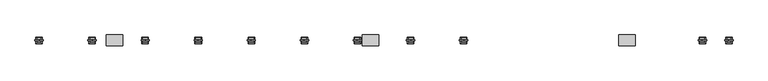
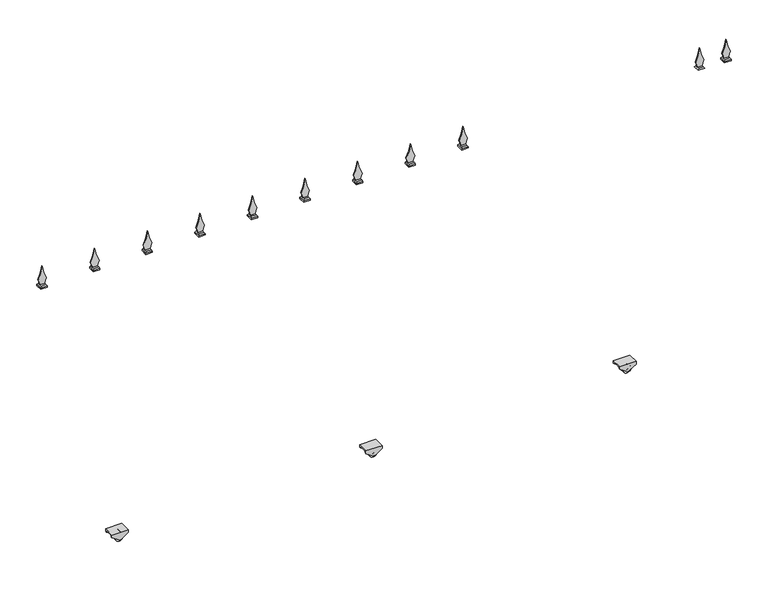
"""IFC4 building model written with IfcOpenShell, lengths in millimetres: geographic element geometry, Portail coulissant - 01 : Portail coulissant - 01."""

from ifc_helpers import new_model, si_unit, point, frame, frame_2d, origin, place, context, project, spatial, polyline, circle_curve, trimmed, segment, composite_curve, outline, extrude, faceted_brep, source, transform, mapped, element, save
from ifc_brep_helpers import plane_surface, cylinder_surface, advanced_brep


def geographic_element_3dbb8d9e(model_context):
    return source(origin(), model_context, "Body", "SolidModel", [
        advanced_brep(
        [(799.2264823, -1.5, 33.0), (799.2264823, -1.5, 3.0), (799.2264823, -14.5, 3.0), (799.2264823, -14.5, 33.0), (799.2264823, -1.5, 30.0), (799.2264823, -1.5, 6.0), (799.2264823, 1.5, 30.0), (799.2264823, 1.5, 6.0), (799.2264823, 1.5, 33.0), (799.2264823, 1.5, 3.0), (799.2264823, 14.5, 33.0), (799.2264823, 14.5, 3.0), (799.2264823, 14.5, 21.0), (796.2264823, 14.5, 18.0), (799.2264823, 14.5, 15.0), (802.2264823, 14.5, 18.0), (799.2264823, -14.5, 15.0), (796.2264823, -14.5, 18.0), (799.2264823, -14.5, 21.0), (802.2264823, -14.5, 18.0), (796.2264823, -16.0, 18.0), (802.2264823, -16.0, 18.0), (796.2264823, 16.0, 18.0), (802.2264823, 16.0, 18.0)],
        [
            (0, 1, circle_curve(frame((799.2264823, -1.5, 18.0), z_axis=(0.0, -1.0, 0.0), x_axis=(0.0, 0.0, -1.0)), 15.0)),
            (1, 2),
            (2, 3, circle_curve(frame((799.2264823, -14.5, 18.0), z_axis=(0.0, 1.0, 0.0), x_axis=(0.0, 0.0, -1.0)), 15.0)),
            (3, 0),
            (1, 0, circle_curve(frame((799.2264823, -1.5, 18.0), z_axis=(0.0, -1.0, 0.0), x_axis=(0.0, 0.0, -1.0)), 15.0)),
            (3, 2, circle_curve(frame((799.2264823, -14.5, 18.0), z_axis=(0.0, 1.0, 0.0), x_axis=(0.0, 0.0, -1.0)), 15.0)),
            (0, 4),
            (4, 5, circle_curve(frame((799.2264823, -1.5, 18.0), z_axis=(0.0, -1.0, 0.0), x_axis=(0.0, 0.0, -1.0)), 12.0)),
            (5, 1),
            (5, 4, circle_curve(frame((799.2264823, -1.5, 18.0), z_axis=(0.0, -1.0, 0.0), x_axis=(0.0, 0.0, -1.0)), 12.0)),
            (4, 6),
            (6, 7, circle_curve(frame((799.2264823, 1.5, 18.0), z_axis=(0.0, -1.0, 0.0), x_axis=(0.0, 0.0, -1.0)), 12.0)),
            (7, 5),
            (7, 6, circle_curve(frame((799.2264823, 1.5, 18.0), z_axis=(0.0, -1.0, 0.0), x_axis=(0.0, 0.0, -1.0)), 12.0)),
            (6, 8),
            (8, 9, circle_curve(frame((799.2264823, 1.5, 18.0), z_axis=(0.0, -1.0, 0.0), x_axis=(0.0, 0.0, -1.0)), 15.0)),
            (9, 7),
            (9, 8, circle_curve(frame((799.2264823, 1.5, 18.0), z_axis=(0.0, -1.0, 0.0), x_axis=(0.0, 0.0, -1.0)), 15.0)),
            (8, 10),
            (10, 11, circle_curve(frame((799.2264823, 14.5, 18.0), z_axis=(0.0, -1.0, 0.0), x_axis=(0.0, 0.0, -1.0)), 15.0)),
            (11, 9),
            (11, 10, circle_curve(frame((799.2264823, 14.5, 18.0), z_axis=(0.0, -1.0, 0.0), x_axis=(0.0, 0.0, -1.0)), 15.0)),
            (10, 12),
            (12, 13, circle_curve(frame((799.2264823, 14.5, 18.0), z_axis=(0.0, -1.0, 0.0), x_axis=(1.0, 0.0, 0.0)), 3.0)),
            (13, 14, circle_curve(frame((799.2264823, 14.5, 18.0), z_axis=(0.0, -1.0, 0.0), x_axis=(1.0, 0.0, 0.0)), 3.0)),
            (14, 11),
            (14, 15, circle_curve(frame((799.2264823, 14.5, 18.0), z_axis=(0.0, -1.0, 0.0), x_axis=(1.0, 0.0, 0.0)), 3.0)),
            (15, 12, circle_curve(frame((799.2264823, 14.5, 18.0), z_axis=(0.0, -1.0, 0.0), x_axis=(1.0, 0.0, 0.0)), 3.0)),
            (2, 16),
            (16, 17, circle_curve(frame((799.2264823, -14.5, 18.0), z_axis=(0.0, 1.0, 0.0), x_axis=(1.0, 0.0, 0.0)), 3.0)),
            (17, 18, circle_curve(frame((799.2264823, -14.5, 18.0), z_axis=(0.0, 1.0, 0.0), x_axis=(1.0, 0.0, 0.0)), 3.0)),
            (18, 3),
            (18, 19, circle_curve(frame((799.2264823, -14.5, 18.0), z_axis=(0.0, 1.0, 0.0), x_axis=(1.0, 0.0, 0.0)), 3.0)),
            (19, 16, circle_curve(frame((799.2264823, -14.5, 18.0), z_axis=(0.0, 1.0, 0.0), x_axis=(1.0, 0.0, 0.0)), 3.0)),
            (20, 21, circle_curve(frame((799.2264823, -16.0, 18.0), z_axis=(0.0, -1.0, 0.0), x_axis=(1.0, 0.0, 0.0)), 3.0)),
            (21, 20, circle_curve(frame((799.2264823, -16.0, 18.0), z_axis=(0.0, -1.0, 0.0), x_axis=(1.0, 0.0, 0.0)), 3.0)),
            (22, 23, circle_curve(frame((799.2264823, 16.0, 18.0), z_axis=(0.0, 1.0, 0.0), x_axis=(1.0, 0.0, 0.0)), 3.0)),
            (23, 22, circle_curve(frame((799.2264823, 16.0, 18.0), z_axis=(0.0, 1.0, 0.0), x_axis=(1.0, 0.0, 0.0)), 3.0)),
            (20, 17),
            (19, 21),
            (23, 15),
            (13, 22),
        ],
        [
            cylinder_surface(frame((799.2264823, 152.0, 18.0), z_axis=(0.0, 1.0, 0.0), x_axis=(0.0, 0.0, -1.0)), 15.0),
            plane_surface(frame((799.2264823, -1.5, 18.0), z_axis=(0.0, 1.0, 0.0), x_axis=(0.0, 0.0, -1.0))),
            cylinder_surface(frame((799.2264823, 152.0, 18.0), z_axis=(0.0, 1.0, 0.0), x_axis=(0.0, 0.0, -1.0)), 12.0),
            plane_surface(frame((799.2264823, 1.5, 18.0), z_axis=(0.0, -1.0, 0.0), x_axis=(0.0, 0.0, -1.0))),
            plane_surface(frame((799.2264823, 14.5, 18.0), z_axis=(0.0, 1.0, 0.0), x_axis=(0.0, 0.0, -1.0))),
            plane_surface(frame((799.2264823, -14.5, 18.0), z_axis=(0.0, -1.0, 0.0), x_axis=(0.0, 0.0, -1.0))),
            plane_surface(frame((802.2264823, -16.0, 18.0), z_axis=(0.0, -1.0, 0.0), x_axis=(0.0, 0.0, 1.0))),
            plane_surface(frame((802.2264823, 16.0, 18.0), z_axis=(0.0, 1.0, 0.0), x_axis=(0.0, 0.0, -1.0))),
            cylinder_surface(frame((799.2264823, 16.0, 18.0), z_axis=(0.0, -1.0, 0.0), x_axis=(1.0, 0.0, 0.0)), 3.0),
        ],
        [
            (0, [[1, 2, 3, 4]]),
            (0, [[-2, 5, -4, 6]]),
            (1, [[-1, 7, 8, 9]]),
            (1, [[-5, -9, 10, -7]]),
            (2, [[-8, 11, 12, 13]]),
            (2, [[-10, -13, 14, -11]]),
            (3, [[-12, 15, 16, 17]]),
            (3, [[-14, -17, 18, -15]]),
            (0, [[-16, 19, 20, 21]]),
            (0, [[-18, -21, 22, -19]]),
            (4, [[-20, 23, 24, 25, 26]]),
            (4, [[-22, -26, 27, 28, -23]]),
            (5, [[-3, 29, 30, 31, 32]]),
            (5, [[-6, -32, 33, 34, -29]]),
            (6, [[35, 36]]),
            (7, [[37, 38]]),
            (8, [[-35, 39, -30, -34, 40]]),
            (8, [[-38, 41, -27, -25, 42]]),
            (8, [[-36, -40, -33, -31, -39]]),
            (8, [[-37, -42, -24, -28, -41]]),
        ],
    ),
        advanced_brep(
        [(769.2264823, -20.0, 30.0), (793.6794803, -20.0, 13.6980013), (804.7734842, -20.0, 13.6980013), (829.2264823, -20.0, 30.0), (829.2264823, -20.0, 40.0), (769.2264823, -20.0, 40.0), (769.2264823, 20.0, 30.0), (769.2264823, 20.0, 40.0), (829.2264823, 20.0, 40.0), (829.2264823, 20.0, 30.0), (804.7734842, 20.0, 13.6980013), (793.6794803, 20.0, 13.6980013), (769.2264823, -16.0, 30.0), (793.6794803, -16.0, 13.6980013), (793.6794803, 16.0, 13.6980013), (769.2264823, 16.0, 30.0), (804.7734842, -16.0, 13.6980013), (804.7734842, 16.0, 13.6980013), (829.2264823, -16.0, 30.0), (829.2264823, 16.0, 30.0), (829.2264823, -16.0, 36.0), (829.2264823, 16.0, 36.0), (769.2264823, 16.0, 36.0), (769.2264823, -16.0, 36.0)],
        [
            (0, 1),
            (1, 2, circle_curve(frame((799.2264823, -20.0, 22.0185043), z_axis=(0.0, -1.0, 0.0), x_axis=(1.0, 0.0, 0.0)), 10.0)),
            (2, 3),
            (3, 4),
            (4, 5),
            (5, 0),
            (6, 7),
            (7, 8),
            (8, 9),
            (9, 10),
            (10, 11, circle_curve(frame((799.2264823, 20.0, 22.0185043), z_axis=(0.0, 1.0, 0.0), x_axis=(1.0, 0.0, 0.0)), 10.0)),
            (11, 6),
            (0, 12),
            (12, 13),
            (13, 1),
            (11, 14),
            (14, 15),
            (15, 6),
            (13, 16, circle_curve(frame((799.2264823, -16.0, 22.0185043), z_axis=(0.0, -1.0, 0.0), x_axis=(1.0, 0.0, 0.0)), 10.0)),
            (16, 2),
            (10, 17),
            (17, 14, circle_curve(frame((799.2264823, 16.0, 22.0185043), z_axis=(0.0, 1.0, 0.0), x_axis=(1.0, 0.0, 0.0)), 10.0)),
            (16, 18),
            (18, 3),
            (9, 19),
            (19, 17),
            (18, 20),
            (20, 21),
            (21, 19),
            (8, 4),
            (7, 5),
            (15, 22),
            (22, 23),
            (23, 12),
            (23, 20),
            (22, 21),
        ],
        [
            plane_surface(frame((769.2264823, -20.0, 30.0), z_axis=(0.0, -1.0000000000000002, 0.0), x_axis=(0.8320502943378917, 0.0, -0.5547001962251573))),
            plane_surface(frame((769.2264823, 20.0, 30.0), z_axis=(0.0, 1.0000000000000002, 0.0), x_axis=(-0.8320502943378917, 0.0, 0.5547001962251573))),
            plane_surface(frame((769.2264823, -20.0, 30.0), z_axis=(-0.5547001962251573, 0.0, -0.8320502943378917), x_axis=(0.0, 1.0, 0.0))),
            cylinder_surface(frame((799.2264823, 20.0, 22.0185043), z_axis=(0.0, -1.0, 0.0), x_axis=(1.0, 0.0, 0.0)), 10.0),
            plane_surface(frame((804.7734842, -20.0, 13.6980013), z_axis=(0.554700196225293, 0.0, -0.8320502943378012), x_axis=(0.0, 1.0, 0.0))),
            plane_surface(frame((829.2264823, -20.0, 30.0), z_axis=(1.0, 0.0, 0.0), x_axis=(0.0, 1.0, 0.0))),
            plane_surface(frame((829.2264823, -20.0, 40.0), z_axis=(0.0, 0.0, 1.0), x_axis=(0.0, 1.0, 0.0))),
            plane_surface(frame((769.2264823, -20.0, 40.0), z_axis=(-1.0, 0.0, 0.0), x_axis=(0.0, 1.0, 0.0))),
            plane_surface(frame((769.2264823, -16.0, 0.0), z_axis=(0.0, 1.0, 0.0), x_axis=(1.0, 0.0, 0.0))),
            plane_surface(frame((769.2264823, -16.0, 36.0), z_axis=(0.0, 0.0, -1.0), x_axis=(1.0, 0.0, 0.0))),
            plane_surface(frame((769.2264823, 16.0, 36.0), z_axis=(0.0, -1.0, 0.0), x_axis=(1.0, 0.0, 0.0))),
        ],
        [
            (0, [[1, 2, 3, 4, 5, 6]]),
            (1, [[7, 8, 9, 10, 11, 12]]),
            (2, [[-1, 13, 14, 15]]),
            (2, [[-12, 16, 17, 18]]),
            (3, [[-2, -15, 19, 20]]),
            (3, [[-11, 21, 22, -16]]),
            (4, [[-3, -20, 23, 24]]),
            (4, [[-10, 25, 26, -21]]),
            (5, [[-4, -24, 27, 28, 29, -25, -9, 30]]),
            (6, [[-5, -30, -8, 31]]),
            (7, [[-6, -31, -7, -18, 32, 33, 34, -13]]),
            (8, [[35, -27, -23, -19, -14, -34]]),
            (9, [[-35, -33, 36, -28]]),
            (10, [[-36, -32, -17, -22, -26, -29]]),
        ],
    ),
        advanced_brep(
        [(-134.1068511, -1.5, 33.0), (-134.1068511, -1.5, 3.0), (-134.1068511, -14.5, 3.0), (-134.1068511, -14.5, 33.0), (-134.1068511, -1.5, 30.0), (-134.1068511, -1.5, 6.0), (-134.1068511, 1.5, 30.0), (-134.1068511, 1.5, 6.0), (-134.1068511, 1.5, 33.0), (-134.1068511, 1.5, 3.0), (-134.1068511, 14.5, 33.0), (-134.1068511, 14.5, 3.0), (-134.1068511, 14.5, 21.0), (-137.1068511, 14.5, 18.0), (-134.1068511, 14.5, 15.0), (-131.1068511, 14.5, 18.0), (-134.1068511, -14.5, 15.0), (-137.1068511, -14.5, 18.0), (-134.1068511, -14.5, 21.0), (-131.1068511, -14.5, 18.0), (-137.1068511, -16.0, 18.0), (-131.1068511, -16.0, 18.0), (-137.1068511, 16.0, 18.0), (-131.1068511, 16.0, 18.0)],
        [
            (0, 1, circle_curve(frame((-134.1068511, -1.5, 18.0), z_axis=(0.0, -1.0, 0.0), x_axis=(0.0, 0.0, -1.0)), 15.0)),
            (1, 2),
            (2, 3, circle_curve(frame((-134.1068511, -14.5, 18.0), z_axis=(0.0, 1.0, 0.0), x_axis=(0.0, 0.0, -1.0)), 15.0)),
            (3, 0),
            (1, 0, circle_curve(frame((-134.1068511, -1.5, 18.0), z_axis=(0.0, -1.0, 0.0), x_axis=(0.0, 0.0, -1.0)), 15.0)),
            (3, 2, circle_curve(frame((-134.1068511, -14.5, 18.0), z_axis=(0.0, 1.0, 0.0), x_axis=(0.0, 0.0, -1.0)), 15.0)),
            (0, 4),
            (4, 5, circle_curve(frame((-134.1068511, -1.5, 18.0), z_axis=(0.0, -1.0, 0.0), x_axis=(0.0, 0.0, -1.0)), 12.0)),
            (5, 1),
            (5, 4, circle_curve(frame((-134.1068511, -1.5, 18.0), z_axis=(0.0, -1.0, 0.0), x_axis=(0.0, 0.0, -1.0)), 12.0)),
            (4, 6),
            (6, 7, circle_curve(frame((-134.1068511, 1.5, 18.0), z_axis=(0.0, -1.0, 0.0), x_axis=(0.0, 0.0, -1.0)), 12.0)),
            (7, 5),
            (7, 6, circle_curve(frame((-134.1068511, 1.5, 18.0), z_axis=(0.0, -1.0, 0.0), x_axis=(0.0, 0.0, -1.0)), 12.0)),
            (6, 8),
            (8, 9, circle_curve(frame((-134.1068511, 1.5, 18.0), z_axis=(0.0, -1.0, 0.0), x_axis=(0.0, 0.0, -1.0)), 15.0)),
            (9, 7),
            (9, 8, circle_curve(frame((-134.1068511, 1.5, 18.0), z_axis=(0.0, -1.0, 0.0), x_axis=(0.0, 0.0, -1.0)), 15.0)),
            (8, 10),
            (10, 11, circle_curve(frame((-134.1068511, 14.5, 18.0), z_axis=(0.0, -1.0, 0.0), x_axis=(0.0, 0.0, -1.0)), 15.0)),
            (11, 9),
            (11, 10, circle_curve(frame((-134.1068511, 14.5, 18.0), z_axis=(0.0, -1.0, 0.0), x_axis=(0.0, 0.0, -1.0)), 15.0)),
            (10, 12),
            (12, 13, circle_curve(frame((-134.1068511, 14.5, 18.0), z_axis=(0.0, -1.0, 0.0), x_axis=(1.0, 0.0, 0.0)), 3.0)),
            (13, 14, circle_curve(frame((-134.1068511, 14.5, 18.0), z_axis=(0.0, -1.0, 0.0), x_axis=(1.0, 0.0, 0.0)), 3.0)),
            (14, 11),
            (14, 15, circle_curve(frame((-134.1068511, 14.5, 18.0), z_axis=(0.0, -1.0, 0.0), x_axis=(1.0, 0.0, 0.0)), 3.0)),
            (15, 12, circle_curve(frame((-134.1068511, 14.5, 18.0), z_axis=(0.0, -1.0, 0.0), x_axis=(1.0, 0.0, 0.0)), 3.0)),
            (2, 16),
            (16, 17, circle_curve(frame((-134.1068511, -14.5, 18.0), z_axis=(0.0, 1.0, 0.0), x_axis=(1.0, 0.0, 0.0)), 3.0)),
            (17, 18, circle_curve(frame((-134.1068511, -14.5, 18.0), z_axis=(0.0, 1.0, 0.0), x_axis=(1.0, 0.0, 0.0)), 3.0)),
            (18, 3),
            (18, 19, circle_curve(frame((-134.1068511, -14.5, 18.0), z_axis=(0.0, 1.0, 0.0), x_axis=(1.0, 0.0, 0.0)), 3.0)),
            (19, 16, circle_curve(frame((-134.1068511, -14.5, 18.0), z_axis=(0.0, 1.0, 0.0), x_axis=(1.0, 0.0, 0.0)), 3.0)),
            (20, 21, circle_curve(frame((-134.1068511, -16.0, 18.0), z_axis=(0.0, -1.0, 0.0), x_axis=(1.0, 0.0, 0.0)), 3.0)),
            (21, 20, circle_curve(frame((-134.1068511, -16.0, 18.0), z_axis=(0.0, -1.0, 0.0), x_axis=(1.0, 0.0, 0.0)), 3.0)),
            (22, 23, circle_curve(frame((-134.1068511, 16.0, 18.0), z_axis=(0.0, 1.0, 0.0), x_axis=(1.0, 0.0, 0.0)), 3.0)),
            (23, 22, circle_curve(frame((-134.1068511, 16.0, 18.0), z_axis=(0.0, 1.0, 0.0), x_axis=(1.0, 0.0, 0.0)), 3.0)),
            (20, 17),
            (19, 21),
            (23, 15),
            (13, 22),
        ],
        [
            cylinder_surface(frame((-134.1068511, 152.0, 18.0), z_axis=(0.0, 1.0, 0.0), x_axis=(0.0, 0.0, -1.0)), 15.0),
            plane_surface(frame((-134.1068511, -1.5, 18.0), z_axis=(0.0, 1.0, 0.0), x_axis=(0.0, 0.0, -1.0))),
            cylinder_surface(frame((-134.1068511, 152.0, 18.0), z_axis=(0.0, 1.0, 0.0), x_axis=(0.0, 0.0, -1.0)), 12.0),
            plane_surface(frame((-134.1068511, 1.5, 18.0), z_axis=(0.0, -1.0, 0.0), x_axis=(0.0, 0.0, -1.0))),
            plane_surface(frame((-134.1068511, 14.5, 18.0), z_axis=(0.0, 1.0, 0.0), x_axis=(0.0, 0.0, -1.0))),
            plane_surface(frame((-134.1068511, -14.5, 18.0), z_axis=(0.0, -1.0, 0.0), x_axis=(0.0, 0.0, -1.0))),
            plane_surface(frame((-131.1068511, -16.0, 18.0), z_axis=(0.0, -1.0, 0.0), x_axis=(0.0, 0.0, 1.0))),
            plane_surface(frame((-131.1068511, 16.0, 18.0), z_axis=(0.0, 1.0, 0.0), x_axis=(0.0, 0.0, -1.0))),
            cylinder_surface(frame((-134.1068511, 16.0, 18.0), z_axis=(0.0, -1.0, 0.0), x_axis=(1.0, 0.0, 0.0)), 3.0),
        ],
        [
            (0, [[1, 2, 3, 4]]),
            (0, [[-2, 5, -4, 6]]),
            (1, [[-1, 7, 8, 9]]),
            (1, [[-5, -9, 10, -7]]),
            (2, [[-8, 11, 12, 13]]),
            (2, [[-10, -13, 14, -11]]),
            (3, [[-12, 15, 16, 17]]),
            (3, [[-14, -17, 18, -15]]),
            (0, [[-16, 19, 20, 21]]),
            (0, [[-18, -21, 22, -19]]),
            (4, [[-20, 23, 24, 25, 26]]),
            (4, [[-22, -26, 27, 28, -23]]),
            (5, [[-3, 29, 30, 31, 32]]),
            (5, [[-6, -32, 33, 34, -29]]),
            (6, [[35, 36]]),
            (7, [[37, 38]]),
            (8, [[-35, 39, -30, -34, 40]]),
            (8, [[-38, 41, -27, -25, 42]]),
            (8, [[-36, -40, -33, -31, -39]]),
            (8, [[-37, -42, -24, -28, -41]]),
        ],
    ),
        advanced_brep(
        [(-164.1068511, -20.0, 30.0), (-139.653853, -20.0, 13.6980013), (-128.5598491, -20.0, 13.6980013), (-104.1068511, -20.0, 30.0), (-104.1068511, -20.0, 40.0), (-164.1068511, -20.0, 40.0), (-164.1068511, 20.0, 30.0), (-164.1068511, 20.0, 40.0), (-104.1068511, 20.0, 40.0), (-104.1068511, 20.0, 30.0), (-128.5598491, 20.0, 13.6980013), (-139.653853, 20.0, 13.6980013), (-164.1068511, -16.0, 30.0), (-139.653853, -16.0, 13.6980013), (-139.653853, 16.0, 13.6980013), (-164.1068511, 16.0, 30.0), (-128.5598491, -16.0, 13.6980013), (-128.5598491, 16.0, 13.6980013), (-104.1068511, -16.0, 30.0), (-104.1068511, 16.0, 30.0), (-104.1068511, -16.0, 36.0), (-104.1068511, 16.0, 36.0), (-164.1068511, 16.0, 36.0), (-164.1068511, -16.0, 36.0)],
        [
            (0, 1),
            (1, 2, circle_curve(frame((-134.1068511, -20.0, 22.0185043), z_axis=(0.0, -1.0, 0.0), x_axis=(1.0, 0.0, 0.0)), 10.0)),
            (2, 3),
            (3, 4),
            (4, 5),
            (5, 0),
            (6, 7),
            (7, 8),
            (8, 9),
            (9, 10),
            (10, 11, circle_curve(frame((-134.1068511, 20.0, 22.0185043), z_axis=(0.0, 1.0, 0.0), x_axis=(1.0, 0.0, 0.0)), 10.0)),
            (11, 6),
            (0, 12),
            (12, 13),
            (13, 1),
            (11, 14),
            (14, 15),
            (15, 6),
            (13, 16, circle_curve(frame((-134.1068511, -16.0, 22.0185043), z_axis=(0.0, -1.0, 0.0), x_axis=(1.0, 0.0, 0.0)), 10.0)),
            (16, 2),
            (10, 17),
            (17, 14, circle_curve(frame((-134.1068511, 16.0, 22.0185043), z_axis=(0.0, 1.0, 0.0), x_axis=(1.0, 0.0, 0.0)), 10.0)),
            (16, 18),
            (18, 3),
            (9, 19),
            (19, 17),
            (18, 20),
            (20, 21),
            (21, 19),
            (8, 4),
            (7, 5),
            (15, 22),
            (22, 23),
            (23, 12),
            (23, 20),
            (22, 21),
        ],
        [
            plane_surface(frame((-164.1068511, -20.0, 30.0), z_axis=(0.0, -1.0000000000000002, 0.0), x_axis=(0.8320502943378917, 0.0, -0.5547001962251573))),
            plane_surface(frame((-164.1068511, 20.0, 30.0), z_axis=(0.0, 1.0000000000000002, 0.0), x_axis=(-0.8320502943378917, 0.0, 0.5547001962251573))),
            plane_surface(frame((-164.1068511, -20.0, 30.0), z_axis=(-0.5547001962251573, 0.0, -0.8320502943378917), x_axis=(0.0, 1.0, 0.0))),
            cylinder_surface(frame((-134.1068511, 20.0, 22.0185043), z_axis=(0.0, -1.0, 0.0), x_axis=(1.0, 0.0, 0.0)), 10.0),
            plane_surface(frame((-128.5598491, -20.0, 13.6980013), z_axis=(0.554700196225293, 0.0, -0.8320502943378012), x_axis=(0.0, 1.0, 0.0))),
            plane_surface(frame((-104.1068511, -20.0, 30.0), z_axis=(1.0, 0.0, 0.0), x_axis=(0.0, 1.0, 0.0))),
            plane_surface(frame((-104.1068511, -20.0, 40.0), z_axis=(0.0, 0.0, 1.0), x_axis=(0.0, 1.0, 0.0))),
            plane_surface(frame((-164.1068511, -20.0, 40.0), z_axis=(-1.0, 0.0, 0.0), x_axis=(0.0, 1.0, 0.0))),
            plane_surface(frame((-164.1068511, -16.0, 0.0), z_axis=(0.0, 1.0, 0.0), x_axis=(1.0, 0.0, 0.0))),
            plane_surface(frame((-164.1068511, -16.0, 36.0), z_axis=(0.0, 0.0, -1.0), x_axis=(1.0, 0.0, 0.0))),
            plane_surface(frame((-164.1068511, 16.0, 36.0), z_axis=(0.0, -1.0, 0.0), x_axis=(1.0, 0.0, 0.0))),
        ],
        [
            (0, [[1, 2, 3, 4, 5, 6]]),
            (1, [[7, 8, 9, 10, 11, 12]]),
            (2, [[-1, 13, 14, 15]]),
            (2, [[-12, 16, 17, 18]]),
            (3, [[-2, -15, 19, 20]]),
            (3, [[-11, 21, 22, -16]]),
            (4, [[-3, -20, 23, 24]]),
            (4, [[-10, 25, 26, -21]]),
            (5, [[-4, -24, 27, 28, 29, -25, -9, 30]]),
            (6, [[-5, -30, -8, 31]]),
            (7, [[-6, -31, -7, -18, 32, 33, 34, -13]]),
            (8, [[35, -27, -23, -19, -14, -34]]),
            (9, [[-35, -33, 36, -28]]),
            (10, [[-36, -32, -17, -22, -26, -29]]),
        ],
    ),
        advanced_brep(
        [(-1067.4401844, -1.5, 33.0), (-1067.4401844, -1.5, 3.0), (-1067.4401844, -14.5, 3.0), (-1067.4401844, -14.5, 33.0), (-1067.4401844, -1.5, 30.0), (-1067.4401844, -1.5, 6.0), (-1067.4401844, 1.5, 30.0), (-1067.4401844, 1.5, 6.0), (-1067.4401844, 1.5, 33.0), (-1067.4401844, 1.5, 3.0), (-1067.4401844, 14.5, 33.0), (-1067.4401844, 14.5, 3.0), (-1067.4401844, 14.5, 21.0), (-1070.4401844, 14.5, 18.0), (-1067.4401844, 14.5, 15.0), (-1064.4401844, 14.5, 18.0), (-1067.4401844, -14.5, 15.0), (-1070.4401844, -14.5, 18.0), (-1067.4401844, -14.5, 21.0), (-1064.4401844, -14.5, 18.0), (-1070.4401844, -16.0, 18.0), (-1064.4401844, -16.0, 18.0), (-1070.4401844, 16.0, 18.0), (-1064.4401844, 16.0, 18.0)],
        [
            (0, 1, circle_curve(frame((-1067.4401844, -1.5, 18.0), z_axis=(0.0, -1.0, 0.0), x_axis=(0.0, 0.0, -1.0)), 15.0)),
            (1, 2),
            (2, 3, circle_curve(frame((-1067.4401844, -14.5, 18.0), z_axis=(0.0, 1.0, 0.0), x_axis=(0.0, 0.0, -1.0)), 15.0)),
            (3, 0),
            (1, 0, circle_curve(frame((-1067.4401844, -1.5, 18.0), z_axis=(0.0, -1.0, 0.0), x_axis=(0.0, 0.0, -1.0)), 15.0)),
            (3, 2, circle_curve(frame((-1067.4401844, -14.5, 18.0), z_axis=(0.0, 1.0, 0.0), x_axis=(0.0, 0.0, -1.0)), 15.0)),
            (0, 4),
            (4, 5, circle_curve(frame((-1067.4401844, -1.5, 18.0), z_axis=(0.0, -1.0, 0.0), x_axis=(0.0, 0.0, -1.0)), 12.0)),
            (5, 1),
            (5, 4, circle_curve(frame((-1067.4401844, -1.5, 18.0), z_axis=(0.0, -1.0, 0.0), x_axis=(0.0, 0.0, -1.0)), 12.0)),
            (4, 6),
            (6, 7, circle_curve(frame((-1067.4401844, 1.5, 18.0), z_axis=(0.0, -1.0, 0.0), x_axis=(0.0, 0.0, -1.0)), 12.0)),
            (7, 5),
            (7, 6, circle_curve(frame((-1067.4401844, 1.5, 18.0), z_axis=(0.0, -1.0, 0.0), x_axis=(0.0, 0.0, -1.0)), 12.0)),
            (6, 8),
            (8, 9, circle_curve(frame((-1067.4401844, 1.5, 18.0), z_axis=(0.0, -1.0, 0.0), x_axis=(0.0, 0.0, -1.0)), 15.0)),
            (9, 7),
            (9, 8, circle_curve(frame((-1067.4401844, 1.5, 18.0), z_axis=(0.0, -1.0, 0.0), x_axis=(0.0, 0.0, -1.0)), 15.0)),
            (8, 10),
            (10, 11, circle_curve(frame((-1067.4401844, 14.5, 18.0), z_axis=(0.0, -1.0, 0.0), x_axis=(0.0, 0.0, -1.0)), 15.0)),
            (11, 9),
            (11, 10, circle_curve(frame((-1067.4401844, 14.5, 18.0), z_axis=(0.0, -1.0, 0.0), x_axis=(0.0, 0.0, -1.0)), 15.0)),
            (10, 12),
            (12, 13, circle_curve(frame((-1067.4401844, 14.5, 18.0), z_axis=(0.0, -1.0, 0.0), x_axis=(1.0, 0.0, 0.0)), 3.0)),
            (13, 14, circle_curve(frame((-1067.4401844, 14.5, 18.0), z_axis=(0.0, -1.0, 0.0), x_axis=(1.0, 0.0, 0.0)), 3.0)),
            (14, 11),
            (14, 15, circle_curve(frame((-1067.4401844, 14.5, 18.0), z_axis=(0.0, -1.0, 0.0), x_axis=(1.0, 0.0, 0.0)), 3.0)),
            (15, 12, circle_curve(frame((-1067.4401844, 14.5, 18.0), z_axis=(0.0, -1.0, 0.0), x_axis=(1.0, 0.0, 0.0)), 3.0)),
            (2, 16),
            (16, 17, circle_curve(frame((-1067.4401844, -14.5, 18.0), z_axis=(0.0, 1.0, 0.0), x_axis=(1.0, 0.0, 0.0)), 3.0)),
            (17, 18, circle_curve(frame((-1067.4401844, -14.5, 18.0), z_axis=(0.0, 1.0, 0.0), x_axis=(1.0, 0.0, 0.0)), 3.0)),
            (18, 3),
            (18, 19, circle_curve(frame((-1067.4401844, -14.5, 18.0), z_axis=(0.0, 1.0, 0.0), x_axis=(1.0, 0.0, 0.0)), 3.0)),
            (19, 16, circle_curve(frame((-1067.4401844, -14.5, 18.0), z_axis=(0.0, 1.0, 0.0), x_axis=(1.0, 0.0, 0.0)), 3.0)),
            (20, 21, circle_curve(frame((-1067.4401844, -16.0, 18.0), z_axis=(0.0, -1.0, 0.0), x_axis=(1.0, 0.0, 0.0)), 3.0)),
            (21, 20, circle_curve(frame((-1067.4401844, -16.0, 18.0), z_axis=(0.0, -1.0, 0.0), x_axis=(1.0, 0.0, 0.0)), 3.0)),
            (22, 23, circle_curve(frame((-1067.4401844, 16.0, 18.0), z_axis=(0.0, 1.0, 0.0), x_axis=(1.0, 0.0, 0.0)), 3.0)),
            (23, 22, circle_curve(frame((-1067.4401844, 16.0, 18.0), z_axis=(0.0, 1.0, 0.0), x_axis=(1.0, 0.0, 0.0)), 3.0)),
            (20, 17),
            (19, 21),
            (23, 15),
            (13, 22),
        ],
        [
            cylinder_surface(frame((-1067.4401844, 152.0, 18.0), z_axis=(0.0, 1.0, 0.0), x_axis=(0.0, 0.0, -1.0)), 15.0),
            plane_surface(frame((-1067.4401844, -1.5, 18.0), z_axis=(0.0, 1.0, 0.0), x_axis=(0.0, 0.0, -1.0))),
            cylinder_surface(frame((-1067.4401844, 152.0, 18.0), z_axis=(0.0, 1.0, 0.0), x_axis=(0.0, 0.0, -1.0)), 12.0),
            plane_surface(frame((-1067.4401844, 1.5, 18.0), z_axis=(0.0, -1.0, 0.0), x_axis=(0.0, 0.0, -1.0))),
            plane_surface(frame((-1067.4401844, 14.5, 18.0), z_axis=(0.0, 1.0, 0.0), x_axis=(0.0, 0.0, -1.0))),
            plane_surface(frame((-1067.4401844, -14.5, 18.0), z_axis=(0.0, -1.0, 0.0), x_axis=(0.0, 0.0, -1.0))),
            plane_surface(frame((-1064.4401844, -16.0, 18.0), z_axis=(0.0, -1.0, 0.0), x_axis=(0.0, 0.0, 1.0))),
            plane_surface(frame((-1064.4401844, 16.0, 18.0), z_axis=(0.0, 1.0, 0.0), x_axis=(0.0, 0.0, -1.0))),
            cylinder_surface(frame((-1067.4401844, 16.0, 18.0), z_axis=(0.0, -1.0, 0.0), x_axis=(1.0, 0.0, 0.0)), 3.0),
        ],
        [
            (0, [[1, 2, 3, 4]]),
            (0, [[-2, 5, -4, 6]]),
            (1, [[-1, 7, 8, 9]]),
            (1, [[-5, -9, 10, -7]]),
            (2, [[-8, 11, 12, 13]]),
            (2, [[-10, -13, 14, -11]]),
            (3, [[-12, 15, 16, 17]]),
            (3, [[-14, -17, 18, -15]]),
            (0, [[-16, 19, 20, 21]]),
            (0, [[-18, -21, 22, -19]]),
            (4, [[-20, 23, 24, 25, 26]]),
            (4, [[-22, -26, 27, 28, -23]]),
            (5, [[-3, 29, 30, 31, 32]]),
            (5, [[-6, -32, 33, 34, -29]]),
            (6, [[35, 36]]),
            (7, [[37, 38]]),
            (8, [[-35, 39, -30, -34, 40]]),
            (8, [[-38, 41, -27, -25, 42]]),
            (8, [[-36, -40, -33, -31, -39]]),
            (8, [[-37, -42, -24, -28, -41]]),
        ],
    ),
        advanced_brep(
        [(-1097.4401844, -20.0, 30.0), (-1072.9871864, -20.0, 13.6980013), (-1061.8931824, -20.0, 13.6980013), (-1037.4401844, -20.0, 30.0), (-1037.4401844, -20.0, 40.0), (-1097.4401844, -20.0, 40.0), (-1097.4401844, 20.0, 30.0), (-1097.4401844, 20.0, 40.0), (-1037.4401844, 20.0, 40.0), (-1037.4401844, 20.0, 30.0), (-1061.8931824, 20.0, 13.6980013), (-1072.9871864, 20.0, 13.6980013), (-1097.4401844, -16.0, 30.0), (-1072.9871864, -16.0, 13.6980013), (-1072.9871864, 16.0, 13.6980013), (-1097.4401844, 16.0, 30.0), (-1061.8931824, -16.0, 13.6980013), (-1061.8931824, 16.0, 13.6980013), (-1037.4401844, -16.0, 30.0), (-1037.4401844, 16.0, 30.0), (-1037.4401844, -16.0, 36.0), (-1037.4401844, 16.0, 36.0), (-1097.4401844, 16.0, 36.0), (-1097.4401844, -16.0, 36.0)],
        [
            (0, 1),
            (1, 2, circle_curve(frame((-1067.4401844, -20.0, 22.0185043), z_axis=(0.0, -1.0, 0.0), x_axis=(1.0, 0.0, 0.0)), 10.0)),
            (2, 3),
            (3, 4),
            (4, 5),
            (5, 0),
            (6, 7),
            (7, 8),
            (8, 9),
            (9, 10),
            (10, 11, circle_curve(frame((-1067.4401844, 20.0, 22.0185043), z_axis=(0.0, 1.0, 0.0), x_axis=(1.0, 0.0, 0.0)), 10.0)),
            (11, 6),
            (0, 12),
            (12, 13),
            (13, 1),
            (11, 14),
            (14, 15),
            (15, 6),
            (13, 16, circle_curve(frame((-1067.4401844, -16.0, 22.0185043), z_axis=(0.0, -1.0, 0.0), x_axis=(1.0, 0.0, 0.0)), 10.0)),
            (16, 2),
            (10, 17),
            (17, 14, circle_curve(frame((-1067.4401844, 16.0, 22.0185043), z_axis=(0.0, 1.0, 0.0), x_axis=(1.0, 0.0, 0.0)), 10.0)),
            (16, 18),
            (18, 3),
            (9, 19),
            (19, 17),
            (18, 20),
            (20, 21),
            (21, 19),
            (8, 4),
            (7, 5),
            (15, 22),
            (22, 23),
            (23, 12),
            (23, 20),
            (22, 21),
        ],
        [
            plane_surface(frame((-1097.4401844, -20.0, 30.0), z_axis=(0.0, -1.0000000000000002, 0.0), x_axis=(0.8320502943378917, 0.0, -0.5547001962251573))),
            plane_surface(frame((-1097.4401844, 20.0, 30.0), z_axis=(0.0, 1.0000000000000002, 0.0), x_axis=(-0.8320502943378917, 0.0, 0.5547001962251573))),
            plane_surface(frame((-1097.4401844, -20.0, 30.0), z_axis=(-0.5547001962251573, 0.0, -0.8320502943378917), x_axis=(0.0, 1.0, 0.0))),
            cylinder_surface(frame((-1067.4401844, 20.0, 22.0185043), z_axis=(0.0, -1.0, 0.0), x_axis=(1.0, 0.0, 0.0)), 10.0),
            plane_surface(frame((-1061.8931824, -20.0, 13.6980013), z_axis=(0.554700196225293, 0.0, -0.8320502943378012), x_axis=(0.0, 1.0, 0.0))),
            plane_surface(frame((-1037.4401844, -20.0, 30.0), z_axis=(1.0, 0.0, 0.0), x_axis=(0.0, 1.0, 0.0))),
            plane_surface(frame((-1037.4401844, -20.0, 40.0), z_axis=(0.0, 0.0, 1.0), x_axis=(0.0, 1.0, 0.0))),
            plane_surface(frame((-1097.4401844, -20.0, 40.0), z_axis=(-1.0, 0.0, 0.0), x_axis=(0.0, 1.0, 0.0))),
            plane_surface(frame((-1097.4401844, -16.0, 0.0), z_axis=(0.0, 1.0, 0.0), x_axis=(1.0, 0.0, 0.0))),
            plane_surface(frame((-1097.4401844, -16.0, 36.0), z_axis=(0.0, 0.0, -1.0), x_axis=(1.0, 0.0, 0.0))),
            plane_surface(frame((-1097.4401844, 16.0, 36.0), z_axis=(0.0, -1.0, 0.0), x_axis=(1.0, 0.0, 0.0))),
        ],
        [
            (0, [[1, 2, 3, 4, 5, 6]]),
            (1, [[7, 8, 9, 10, 11, 12]]),
            (2, [[-1, 13, 14, 15]]),
            (2, [[-12, 16, 17, 18]]),
            (3, [[-2, -15, 19, 20]]),
            (3, [[-11, 21, 22, -16]]),
            (4, [[-3, -20, 23, 24]]),
            (4, [[-10, 25, 26, -21]]),
            (5, [[-4, -24, 27, 28, 29, -25, -9, 30]]),
            (6, [[-5, -30, -8, 31]]),
            (7, [[-6, -31, -7, -18, 32, 33, 34, -13]]),
            (8, [[35, -27, -23, -19, -14, -34]]),
            (9, [[-35, -33, 36, -28]]),
            (10, [[-36, -32, -17, -22, -26, -29]]),
        ],
    ),
        extrude(outline(composite_curve([segment(trimmed(circle_curve(frame_2d((1074.9252719, 108.6440554)), 87.884948), [point((1110.0, 189.2264823))], [point((1090.0, 195.2264823))], True, "CARTESIAN"), True, "CONTINUOUS"), segment(polyline([(1090.0, 195.2264823), (1090.0, 213.2264823)]), True, "CONTINUOUS"), segment(trimmed(circle_curve(frame_2d((1074.9252719, 299.8089092)), 87.884948), [point((1090.0, 213.2264823))], [point((1110.0, 219.2264823))], True, "CARTESIAN"), True, "CONTINUOUS"), segment(trimmed(circle_curve(frame_2d((1184.2044665, 375.7413708)), 173.2143562), [point((1110.0, 219.2264823))], [point((1160.0, 204.2264823))], True, "CARTESIAN"), True, "CONTINUOUS"), segment(trimmed(circle_curve(frame_2d((1184.2044665, 32.7115938)), 173.2143562), [point((1160.0, 204.2264823))], [point((1110.0, 189.2264823))], True, "CARTESIAN"), True, "CONTINUOUS")], self_intersect=False)), frame((0.0, -1.5, 0.0), z_axis=(0.0, 1.0, 0.0), x_axis=(0.0, 0.0, 1.0)), (0.0, 0.0, 1.0), 3.0),
        faceted_brep([(195.2264823, 9.0, 1090.0), (195.2264823, -9.0, 1090.0), (213.2264823, -9.0, 1090.0), (213.2264823, 9.0, 1090.0), (192.2264823, 12.0, 1085.0), (216.2264823, 12.0, 1085.0), (216.2264823, -12.0, 1085.0), (192.2264823, -12.0, 1085.0)], [[[0, 1, 2, 3]], [[4, 5, 6, 7]], [[4, 7, 1, 0]], [[7, 6, 2, 1]], [[6, 5, 3, 2]], [[5, 4, 0, 3]]]),
        extrude(outline(polyline([(216.2264823, 12.0), (216.2264823, -12.0), (192.2264823, -12.0), (192.2264823, 12.0), (216.2264823, 12.0)])), frame((0.0, 0.0, 1080.0), z_axis=(0.0, 0.0, 1.0), x_axis=(1.0, 0.0, 0.0)), (0.0, 0.0, 1.0), 5.0),
        extrude(outline(composite_curve([segment(trimmed(circle_curve(frame_2d((1074.9252719, -84.689278)), 87.884948), [point((1110.0, -4.1068511))], [point((1090.0, 1.8931489))], True, "CARTESIAN"), True, "CONTINUOUS"), segment(polyline([(1090.0, 1.8931489), (1090.0, 19.8931489)]), True, "CONTINUOUS"), segment(trimmed(circle_curve(frame_2d((1074.9252719, 106.4755759)), 87.884948), [point((1090.0, 19.8931489))], [point((1110.0, 25.8931489))], True, "CARTESIAN"), True, "CONTINUOUS"), segment(trimmed(circle_curve(frame_2d((1184.2044665, 182.4080374)), 173.2143562), [point((1110.0, 25.8931489))], [point((1160.0, 10.8931489))], True, "CARTESIAN"), True, "CONTINUOUS"), segment(trimmed(circle_curve(frame_2d((1184.2044665, -160.6217396)), 173.2143562), [point((1160.0, 10.8931489))], [point((1110.0, -4.1068511))], True, "CARTESIAN"), True, "CONTINUOUS")], self_intersect=False)), frame((0.0, -1.5, 0.0), z_axis=(0.0, 1.0, 0.0), x_axis=(0.0, 0.0, 1.0)), (0.0, 0.0, 1.0), 3.0),
        faceted_brep([(1.8931489, 9.0, 1090.0), (1.8931489, -9.0, 1090.0), (19.8931489, -9.0, 1090.0), (19.8931489, 9.0, 1090.0), (-1.1068511, 12.0, 1085.0), (22.8931489, 12.0, 1085.0), (22.8931489, -12.0, 1085.0), (-1.1068511, -12.0, 1085.0)], [[[0, 1, 2, 3]], [[4, 5, 6, 7]], [[4, 7, 1, 0]], [[7, 6, 2, 1]], [[6, 5, 3, 2]], [[5, 4, 0, 3]]]),
        extrude(outline(polyline([(22.8931489, 12.0), (22.8931489, -12.0), (-1.1068511, -12.0), (-1.1068511, 12.0), (22.8931489, 12.0)])), frame((0.0, 0.0, 1080.0), z_axis=(0.0, 0.0, 1.0), x_axis=(1.0, 0.0, 0.0)), (0.0, 0.0, 1.0), 5.0),
        extrude(outline(composite_curve([segment(trimmed(circle_curve(frame_2d((1074.9252719, -278.0226113)), 87.884948), [point((1110.0, -197.4401844))], [point((1090.0, -191.4401844))], True, "CARTESIAN"), True, "CONTINUOUS"), segment(polyline([(1090.0, -191.4401844), (1090.0, -173.4401844)]), True, "CONTINUOUS"), segment(trimmed(circle_curve(frame_2d((1074.9252719, -86.8577575)), 87.884948), [point((1090.0, -173.4401844))], [point((1110.0, -167.4401844))], True, "CARTESIAN"), True, "CONTINUOUS"), segment(trimmed(circle_curve(frame_2d((1184.2044665, -10.9252959)), 173.2143562), [point((1110.0, -167.4401844))], [point((1160.0, -182.4401844))], True, "CARTESIAN"), True, "CONTINUOUS"), segment(trimmed(circle_curve(frame_2d((1184.2044665, -353.9550729)), 173.2143562), [point((1160.0, -182.4401844))], [point((1110.0, -197.4401844))], True, "CARTESIAN"), True, "CONTINUOUS")], self_intersect=False)), frame((0.0, -1.5, 0.0), z_axis=(0.0, 1.0, 0.0), x_axis=(0.0, 0.0, 1.0)), (0.0, 0.0, 1.0), 3.0),
        faceted_brep([(-191.4401844, 9.0, 1090.0), (-191.4401844, -9.0, 1090.0), (-173.4401844, -9.0, 1090.0), (-173.4401844, 9.0, 1090.0), (-194.4401844, 12.0, 1085.0), (-170.4401844, 12.0, 1085.0), (-170.4401844, -12.0, 1085.0), (-194.4401844, -12.0, 1085.0)], [[[0, 1, 2, 3]], [[4, 5, 6, 7]], [[4, 7, 1, 0]], [[7, 6, 2, 1]], [[6, 5, 3, 2]], [[5, 4, 0, 3]]]),
        extrude(outline(polyline([(-170.4401844, 12.0), (-170.4401844, -12.0), (-194.4401844, -12.0), (-194.4401844, 12.0), (-170.4401844, 12.0)])), frame((0.0, 0.0, 1080.0), z_axis=(0.0, 0.0, 1.0), x_axis=(1.0, 0.0, 0.0)), (0.0, 0.0, 1.0), 5.0),
        extrude(outline(composite_curve([segment(trimmed(circle_curve(frame_2d((1074.9252719, -471.3559446)), 87.884948), [point((1110.0, -390.7735177))], [point((1090.0, -384.7735177))], True, "CARTESIAN"), True, "CONTINUOUS"), segment(polyline([(1090.0, -384.7735177), (1090.0, -366.7735177)]), True, "CONTINUOUS"), segment(trimmed(circle_curve(frame_2d((1074.9252719, -280.1910908)), 87.884948), [point((1090.0, -366.7735177))], [point((1110.0, -360.7735177))], True, "CARTESIAN"), True, "CONTINUOUS"), segment(trimmed(circle_curve(frame_2d((1184.2044665, -204.2586292)), 173.2143562), [point((1110.0, -360.7735177))], [point((1160.0, -375.7735177))], True, "CARTESIAN"), True, "CONTINUOUS"), segment(trimmed(circle_curve(frame_2d((1184.2044665, -547.2884062)), 173.2143562), [point((1160.0, -375.7735177))], [point((1110.0, -390.7735177))], True, "CARTESIAN"), True, "CONTINUOUS")], self_intersect=False)), frame((0.0, -1.5, 0.0), z_axis=(0.0, 1.0, 0.0), x_axis=(0.0, 0.0, 1.0)), (0.0, 0.0, 1.0), 3.0),
        faceted_brep([(-384.7735177, 9.0, 1090.0), (-384.7735177, -9.0, 1090.0), (-366.7735177, -9.0, 1090.0), (-366.7735177, 9.0, 1090.0), (-387.7735177, 12.0, 1085.0), (-363.7735177, 12.0, 1085.0), (-363.7735177, -12.0, 1085.0), (-387.7735177, -12.0, 1085.0)], [[[0, 1, 2, 3]], [[4, 5, 6, 7]], [[4, 7, 1, 0]], [[7, 6, 2, 1]], [[6, 5, 3, 2]], [[5, 4, 0, 3]]]),
        extrude(outline(polyline([(-363.7735177, 12.0), (-363.7735177, -12.0), (-387.7735177, -12.0), (-387.7735177, 12.0), (-363.7735177, 12.0)])), frame((0.0, 0.0, 1080.0), z_axis=(0.0, 0.0, 1.0), x_axis=(1.0, 0.0, 0.0)), (0.0, 0.0, 1.0), 5.0),
        extrude(outline(composite_curve([segment(trimmed(circle_curve(frame_2d((1074.9252719, -664.689278)), 87.884948), [point((1110.0, -584.1068511))], [point((1090.0, -578.1068511))], True, "CARTESIAN"), True, "CONTINUOUS"), segment(polyline([(1090.0, -578.1068511), (1090.0, -560.1068511)]), True, "CONTINUOUS"), segment(trimmed(circle_curve(frame_2d((1074.9252719, -473.5244241)), 87.884948), [point((1090.0, -560.1068511))], [point((1110.0, -554.1068511))], True, "CARTESIAN"), True, "CONTINUOUS"), segment(trimmed(circle_curve(frame_2d((1184.2044665, -397.5919626)), 173.2143562), [point((1110.0, -554.1068511))], [point((1160.0, -569.1068511))], True, "CARTESIAN"), True, "CONTINUOUS"), segment(trimmed(circle_curve(frame_2d((1184.2044665, -740.6217396)), 173.2143562), [point((1160.0, -569.1068511))], [point((1110.0, -584.1068511))], True, "CARTESIAN"), True, "CONTINUOUS")], self_intersect=False)), frame((0.0, -1.5, 0.0), z_axis=(0.0, 1.0, 0.0), x_axis=(0.0, 0.0, 1.0)), (0.0, 0.0, 1.0), 3.0),
        faceted_brep([(-578.1068511, 9.0, 1090.0), (-578.1068511, -9.0, 1090.0), (-560.1068511, -9.0, 1090.0), (-560.1068511, 9.0, 1090.0), (-581.1068511, 12.0, 1085.0), (-557.1068511, 12.0, 1085.0), (-557.1068511, -12.0, 1085.0), (-581.1068511, -12.0, 1085.0)], [[[0, 1, 2, 3]], [[4, 5, 6, 7]], [[4, 7, 1, 0]], [[7, 6, 2, 1]], [[6, 5, 3, 2]], [[5, 4, 0, 3]]]),
        extrude(outline(polyline([(-557.1068511, 12.0), (-557.1068511, -12.0), (-581.1068511, -12.0), (-581.1068511, 12.0), (-557.1068511, 12.0)])), frame((0.0, 0.0, 1080.0), z_axis=(0.0, 0.0, 1.0), x_axis=(1.0, 0.0, 0.0)), (0.0, 0.0, 1.0), 5.0),
        extrude(outline(composite_curve([segment(trimmed(circle_curve(frame_2d((1074.9252719, -858.0226113)), 87.884948), [point((1110.0, -777.4401844))], [point((1090.0, -771.4401844))], True, "CARTESIAN"), True, "CONTINUOUS"), segment(polyline([(1090.0, -771.4401844), (1090.0, -753.4401844)]), True, "CONTINUOUS"), segment(trimmed(circle_curve(frame_2d((1074.9252719, -666.8577575)), 87.884948), [point((1090.0, -753.4401844))], [point((1110.0, -747.4401844))], True, "CARTESIAN"), True, "CONTINUOUS"), segment(trimmed(circle_curve(frame_2d((1184.2044665, -590.9252959)), 173.2143562), [point((1110.0, -747.4401844))], [point((1160.0, -762.4401844))], True, "CARTESIAN"), True, "CONTINUOUS"), segment(trimmed(circle_curve(frame_2d((1184.2044665, -933.9550729)), 173.2143562), [point((1160.0, -762.4401844))], [point((1110.0, -777.4401844))], True, "CARTESIAN"), True, "CONTINUOUS")], self_intersect=False)), frame((0.0, -1.5, 0.0), z_axis=(0.0, 1.0, 0.0), x_axis=(0.0, 0.0, 1.0)), (0.0, 0.0, 1.0), 3.0),
        faceted_brep([(-771.4401844, 9.0, 1090.0), (-771.4401844, -9.0, 1090.0), (-753.4401844, -9.0, 1090.0), (-753.4401844, 9.0, 1090.0), (-774.4401844, 12.0, 1085.0), (-750.4401844, 12.0, 1085.0), (-750.4401844, -12.0, 1085.0), (-774.4401844, -12.0, 1085.0)], [[[0, 1, 2, 3]], [[4, 5, 6, 7]], [[4, 7, 1, 0]], [[7, 6, 2, 1]], [[6, 5, 3, 2]], [[5, 4, 0, 3]]]),
        extrude(outline(polyline([(-750.4401844, 12.0), (-750.4401844, -12.0), (-774.4401844, -12.0), (-774.4401844, 12.0), (-750.4401844, 12.0)])), frame((0.0, 0.0, 1080.0), z_axis=(0.0, 0.0, 1.0), x_axis=(1.0, 0.0, 0.0)), (0.0, 0.0, 1.0), 5.0),
        extrude(outline(composite_curve([segment(trimmed(circle_curve(frame_2d((1074.9252719, -1051.3559446)), 87.884948), [point((1110.0, -970.7735177))], [point((1090.0, -964.7735177))], True, "CARTESIAN"), True, "CONTINUOUS"), segment(polyline([(1090.0, -964.7735177), (1090.0, -946.7735177)]), True, "CONTINUOUS"), segment(trimmed(circle_curve(frame_2d((1074.9252719, -860.1910908)), 87.884948), [point((1090.0, -946.7735177))], [point((1110.0, -940.7735177))], True, "CARTESIAN"), True, "CONTINUOUS"), segment(trimmed(circle_curve(frame_2d((1184.2044665, -784.2586292)), 173.2143562), [point((1110.0, -940.7735177))], [point((1160.0, -955.7735177))], True, "CARTESIAN"), True, "CONTINUOUS"), segment(trimmed(circle_curve(frame_2d((1184.2044665, -1127.2884062)), 173.2143562), [point((1160.0, -955.7735177))], [point((1110.0, -970.7735177))], True, "CARTESIAN"), True, "CONTINUOUS")], self_intersect=False)), frame((0.0, -1.5, 0.0), z_axis=(0.0, 1.0, 0.0), x_axis=(0.0, 0.0, 1.0)), (0.0, 0.0, 1.0), 3.0),
        faceted_brep([(-964.7735177, 9.0, 1090.0), (-964.7735177, -9.0, 1090.0), (-946.7735177, -9.0, 1090.0), (-946.7735177, 9.0, 1090.0), (-967.7735177, 12.0, 1085.0), (-943.7735177, 12.0, 1085.0), (-943.7735177, -12.0, 1085.0), (-967.7735177, -12.0, 1085.0)], [[[0, 1, 2, 3]], [[4, 5, 6, 7]], [[4, 7, 1, 0]], [[7, 6, 2, 1]], [[6, 5, 3, 2]], [[5, 4, 0, 3]]]),
        extrude(outline(polyline([(-943.7735177, 12.0), (-943.7735177, -12.0), (-967.7735177, -12.0), (-967.7735177, 12.0), (-943.7735177, 12.0)])), frame((0.0, 0.0, 1080.0), z_axis=(0.0, 0.0, 1.0), x_axis=(1.0, 0.0, 0.0)), (0.0, 0.0, 1.0), 5.0),
        extrude(outline(composite_curve([segment(trimmed(circle_curve(frame_2d((1074.9252719, -1244.689278)), 87.884948), [point((1110.0, -1164.1068511))], [point((1090.0, -1158.1068511))], True, "CARTESIAN"), True, "CONTINUOUS"), segment(polyline([(1090.0, -1158.1068511), (1090.0, -1140.1068511)]), True, "CONTINUOUS"), segment(trimmed(circle_curve(frame_2d((1074.9252719, -1053.5244241)), 87.884948), [point((1090.0, -1140.1068511))], [point((1110.0, -1134.1068511))], True, "CARTESIAN"), True, "CONTINUOUS"), segment(trimmed(circle_curve(frame_2d((1184.2044665, -977.5919626)), 173.2143562), [point((1110.0, -1134.1068511))], [point((1160.0, -1149.1068511))], True, "CARTESIAN"), True, "CONTINUOUS"), segment(trimmed(circle_curve(frame_2d((1184.2044665, -1320.6217396)), 173.2143562), [point((1160.0, -1149.1068511))], [point((1110.0, -1164.1068511))], True, "CARTESIAN"), True, "CONTINUOUS")], self_intersect=False)), frame((0.0, -1.5, 0.0), z_axis=(0.0, 1.0, 0.0), x_axis=(0.0, 0.0, 1.0)), (0.0, 0.0, 1.0), 3.0),
        faceted_brep([(-1158.1068511, 9.0, 1090.0), (-1158.1068511, -9.0, 1090.0), (-1140.1068511, -9.0, 1090.0), (-1140.1068511, 9.0, 1090.0), (-1161.1068511, 12.0, 1085.0), (-1137.1068511, 12.0, 1085.0), (-1137.1068511, -12.0, 1085.0), (-1161.1068511, -12.0, 1085.0)], [[[0, 1, 2, 3]], [[4, 5, 6, 7]], [[4, 7, 1, 0]], [[7, 6, 2, 1]], [[6, 5, 3, 2]], [[5, 4, 0, 3]]]),
        extrude(outline(polyline([(-1137.1068511, 12.0), (-1137.1068511, -12.0), (-1161.1068511, -12.0), (-1161.1068511, 12.0), (-1137.1068511, 12.0)])), frame((0.0, 0.0, 1080.0), z_axis=(0.0, 0.0, 1.0), x_axis=(1.0, 0.0, 0.0)), (0.0, 0.0, 1.0), 5.0),
        extrude(outline(composite_curve([segment(trimmed(circle_curve(frame_2d((1074.9252719, -1438.0226113)), 87.884948), [point((1110.0, -1357.4401844))], [point((1090.0, -1351.4401844))], True, "CARTESIAN"), True, "CONTINUOUS"), segment(polyline([(1090.0, -1351.4401844), (1090.0, -1333.4401844)]), True, "CONTINUOUS"), segment(trimmed(circle_curve(frame_2d((1074.9252719, -1246.8577575)), 87.884948), [point((1090.0, -1333.4401844))], [point((1110.0, -1327.4401844))], True, "CARTESIAN"), True, "CONTINUOUS"), segment(trimmed(circle_curve(frame_2d((1184.2044665, -1170.9252959)), 173.2143562), [point((1110.0, -1327.4401844))], [point((1160.0, -1342.4401844))], True, "CARTESIAN"), True, "CONTINUOUS"), segment(trimmed(circle_curve(frame_2d((1184.2044665, -1513.9550729)), 173.2143562), [point((1160.0, -1342.4401844))], [point((1110.0, -1357.4401844))], True, "CARTESIAN"), True, "CONTINUOUS")], self_intersect=False)), frame((0.0, -1.5, 0.0), z_axis=(0.0, 1.0, 0.0), x_axis=(0.0, 0.0, 1.0)), (0.0, 0.0, 1.0), 3.0),
        faceted_brep([(-1351.4401844, 9.0, 1090.0), (-1351.4401844, -9.0, 1090.0), (-1333.4401844, -9.0, 1090.0), (-1333.4401844, 9.0, 1090.0), (-1354.4401844, 12.0, 1085.0), (-1330.4401844, 12.0, 1085.0), (-1330.4401844, -12.0, 1085.0), (-1354.4401844, -12.0, 1085.0)], [[[0, 1, 2, 3]], [[4, 5, 6, 7]], [[4, 7, 1, 0]], [[7, 6, 2, 1]], [[6, 5, 3, 2]], [[5, 4, 0, 3]]]),
        extrude(outline(polyline([(-1330.4401844, 12.0), (-1330.4401844, -12.0), (-1354.4401844, -12.0), (-1354.4401844, 12.0), (-1330.4401844, 12.0)])), frame((0.0, 0.0, 1080.0), z_axis=(0.0, 0.0, 1.0), x_axis=(1.0, 0.0, 0.0)), (0.0, 0.0, 1.0), 5.0),
        extrude(outline(composite_curve([segment(trimmed(circle_curve(frame_2d((1074.9252719, 1075.310722)), 87.884948), [point((1110.0, 1155.8931489))], [point((1090.0, 1161.8931489))], True, "CARTESIAN"), True, "CONTINUOUS"), segment(polyline([(1090.0, 1161.8931489), (1090.0, 1179.8931489)]), True, "CONTINUOUS"), segment(trimmed(circle_curve(frame_2d((1074.9252719, 1266.4755759)), 87.884948), [point((1090.0, 1179.8931489))], [point((1110.0, 1185.8931489))], True, "CARTESIAN"), True, "CONTINUOUS"), segment(trimmed(circle_curve(frame_2d((1184.2044665, 1342.4080374)), 173.2143562), [point((1110.0, 1185.8931489))], [point((1160.0, 1170.8931489))], True, "CARTESIAN"), True, "CONTINUOUS"), segment(trimmed(circle_curve(frame_2d((1184.2044665, 999.3782604)), 173.2143562), [point((1160.0, 1170.8931489))], [point((1110.0, 1155.8931489))], True, "CARTESIAN"), True, "CONTINUOUS")], self_intersect=False)), frame((0.0, -1.5, 0.0), z_axis=(0.0, 1.0, 0.0), x_axis=(0.0, 0.0, 1.0)), (0.0, 0.0, 1.0), 3.0),
        faceted_brep([(1161.8931489, 9.0, 1090.0), (1161.8931489, -9.0, 1090.0), (1179.8931489, -9.0, 1090.0), (1179.8931489, 9.0, 1090.0), (1158.8931489, 12.0, 1085.0), (1182.8931489, 12.0, 1085.0), (1182.8931489, -12.0, 1085.0), (1158.8931489, -12.0, 1085.0)], [[[0, 1, 2, 3]], [[4, 5, 6, 7]], [[4, 7, 1, 0]], [[7, 6, 2, 1]], [[6, 5, 3, 2]], [[5, 4, 0, 3]]]),
        extrude(outline(polyline([(1182.8931489, 12.0), (1182.8931489, -12.0), (1158.8931489, -12.0), (1158.8931489, 12.0), (1182.8931489, 12.0)])), frame((0.0, 0.0, 1080.0), z_axis=(0.0, 0.0, 1.0), x_axis=(1.0, 0.0, 0.0)), (0.0, 0.0, 1.0), 5.0),
        extrude(outline(composite_curve([segment(trimmed(circle_curve(frame_2d((1074.9252719, 978.6440554)), 87.884948), [point((1110.0, 1059.2264823))], [point((1090.0, 1065.2264823))], True, "CARTESIAN"), True, "CONTINUOUS"), segment(polyline([(1090.0, 1065.2264823), (1090.0, 1083.2264823)]), True, "CONTINUOUS"), segment(trimmed(circle_curve(frame_2d((1074.9252719, 1169.8089092)), 87.884948), [point((1090.0, 1083.2264823))], [point((1110.0, 1089.2264823))], True, "CARTESIAN"), True, "CONTINUOUS"), segment(trimmed(circle_curve(frame_2d((1184.2044665, 1245.7413708)), 173.2143562), [point((1110.0, 1089.2264823))], [point((1160.0, 1074.2264823))], True, "CARTESIAN"), True, "CONTINUOUS"), segment(trimmed(circle_curve(frame_2d((1184.2044665, 902.7115938)), 173.2143562), [point((1160.0, 1074.2264823))], [point((1110.0, 1059.2264823))], True, "CARTESIAN"), True, "CONTINUOUS")], self_intersect=False)), frame((0.0, -1.5, 0.0), z_axis=(0.0, 1.0, 0.0), x_axis=(0.0, 0.0, 1.0)), (0.0, 0.0, 1.0), 3.0),
        faceted_brep([(1065.2264823, 9.0, 1090.0), (1065.2264823, -9.0, 1090.0), (1083.2264823, -9.0, 1090.0), (1083.2264823, 9.0, 1090.0), (1062.2264823, 12.0, 1085.0), (1086.2264823, 12.0, 1085.0), (1086.2264823, -12.0, 1085.0), (1062.2264823, -12.0, 1085.0)], [[[0, 1, 2, 3]], [[4, 5, 6, 7]], [[4, 7, 1, 0]], [[7, 6, 2, 1]], [[6, 5, 3, 2]], [[5, 4, 0, 3]]]),
    ])


if __name__ == "__main__":
    model = new_model("IFC4")
    model_context = context("Model", 3, world=origin())
    ifc_project = project(units=[si_unit("LENGTHUNIT", "METRE", prefix="MILLI")], contexts=[model_context])
    site = spatial("IfcSite", under=ifc_project)
    building = spatial("IfcBuilding", under=site)
    placement = place(None, origin())
    geographic_element_shape = geographic_element_3dbb8d9e(model_context)
    element("IfcGeographicElement", 1, ObjectType="Portail coulissant - 01 : Portail coulissant - 01", at=placement, inside=building, context=model_context, shape_type="MappedRepresentation", body=[
        mapped(geographic_element_shape, transform((0.0, 0.0, 0.0), x_axis=(1.0, 0.0, 0.0), y_axis=(0.0, 1.0, 0.0), z_axis=(0.0, 0.0, 1.0))),
    ])
    save(model, "model.ifc")
